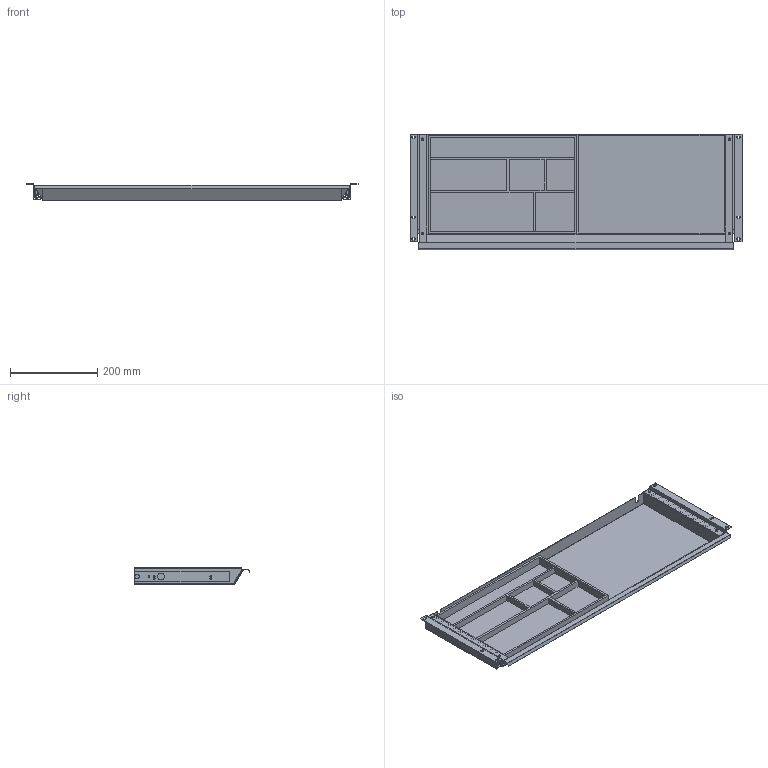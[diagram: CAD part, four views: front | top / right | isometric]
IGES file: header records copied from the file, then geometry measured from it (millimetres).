
Start section: Data from Parasolid IGES Translator 20.0.26, Copyright(c) 2006 Siemens P LM Software. All Rights Reserved.
Global section: file name: 9309822.igs; native system: By Siemens PLM Incorporated; preprocessor: XPlus GENERIC/IGES 20.0.26; author: Noname; organization: Noname; date: 20211203.155448; units: millimetre
Bounding box: 759.6 x 264.47 x 38.4 mm (x, y, z)
Surface area: 1035531.1 mm2 (no closed solid volume)
Topology: 0 solids, 0 shells, 396 faces, 2164 edges, 2123 vertices
Faces by surface type: extrusion 286, revolution 110
